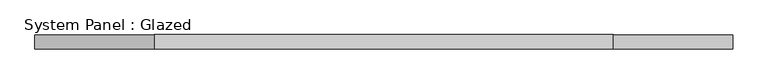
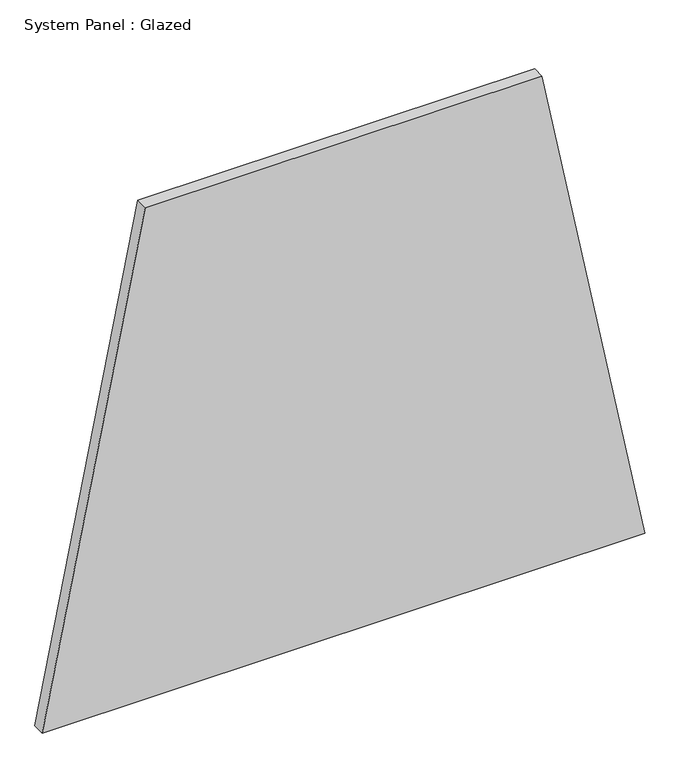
"""IFC4 building model written with IfcOpenShell, lengths in millimetres: plate geometry, System Panel : Glazed."""

from ifc_helpers import new_model, si_unit, frame, origin, place, context, project, spatial, polyline, outline, extrude, source, transform, mapped, element, save


def system_panel_glazed_f957fdb4(model_context):
    return source(origin(), model_context, "Body", "SweptSolid", [
        extrude(outline(polyline([(0.0, -607.0671931), (0.0, 607.0671931), (1046.4593025, 399.7385452), (1046.4593025, -399.7385452), (0.0, -607.0671931)])), frame((0.0, -49.5, 0.0), z_axis=(0.0, 1.0, 0.0), x_axis=(0.0, 0.0, 1.0)), (0.0, 0.0, 1.0), 25.0),
    ])


if __name__ == "__main__":
    model = new_model("IFC4")
    model_context = context("Model", 3, world=origin())
    ifc_project = project(units=[si_unit("LENGTHUNIT", "METRE", prefix="MILLI")], contexts=[model_context])
    site = spatial("IfcSite", under=ifc_project)
    building = spatial("IfcBuilding", under=site)
    placement = place(None, origin())
    system_panel_glazed_shape = system_panel_glazed_f957fdb4(model_context)
    element("IfcPlate", 1, ObjectType="System Panel : Glazed", at=placement, inside=building, context=model_context, shape_type="MappedRepresentation", body=[
        mapped(system_panel_glazed_shape, transform((0.0, 0.0, 0.0), x_axis=(1.0, 0.0, 0.0), y_axis=(0.0, 1.0, 0.0), z_axis=(0.0, 0.0, 1.0))),
    ])
    save(model, "model.ifc")
